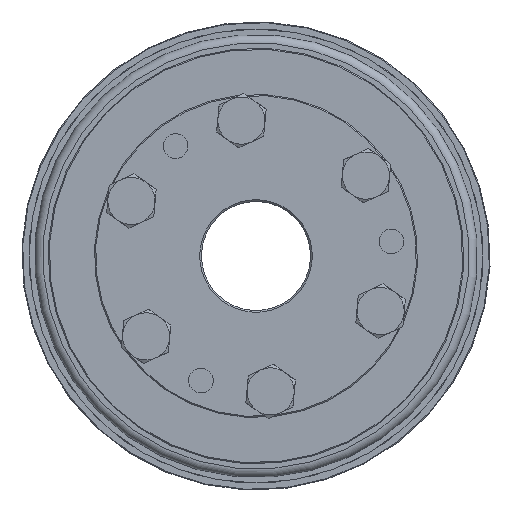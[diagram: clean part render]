
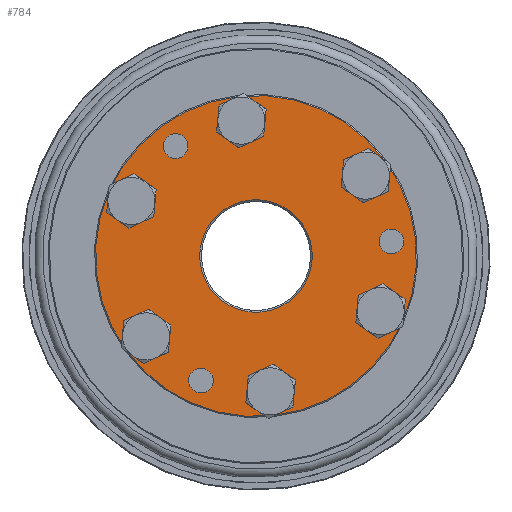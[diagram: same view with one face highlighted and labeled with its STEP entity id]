
A CAD part, left-side view. The second image highlights one B-rep face of the part: STEP entity #784.
In plain terms, the highlighted planar face has unit normal (-1, 0, 0).
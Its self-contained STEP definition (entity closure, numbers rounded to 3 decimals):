
#784 = ADVANCED_FACE( 'NONE', ( #1562, #1563, #1564, #1565, #1566, #1567, #1568, #1569, #1570, #1571, #1572 ), #1573, .F. );
#1562 = FACE_OUTER_BOUND( '', #2551, .T. );
#1563 = FACE_BOUND( '', #2552, .T. );
#1564 = FACE_BOUND( '', #2553, .T. );
#1565 = FACE_BOUND( '', #2554, .T. );
#1566 = FACE_BOUND( '', #2555, .T. );
#1567 = FACE_BOUND( '', #2556, .T. );
#1568 = FACE_BOUND( '', #2557, .T. );
#1569 = FACE_BOUND( '', #2558, .T. );
#1570 = FACE_BOUND( '', #2559, .T. );
#1571 = FACE_BOUND( '', #2560, .T. );
#1572 = FACE_BOUND( '', #2561, .T. );
#1573 = PLANE( '', #2562 );
#2551 = EDGE_LOOP( '', ( #3630 ) );
#2552 = EDGE_LOOP( '', ( #3631 ) );
#2553 = EDGE_LOOP( '', ( #3632 ) );
#2554 = EDGE_LOOP( '', ( #3633 ) );
#2555 = EDGE_LOOP( '', ( #3634 ) );
#2556 = EDGE_LOOP( '', ( #3635 ) );
#2557 = EDGE_LOOP( '', ( #3636 ) );
#2558 = EDGE_LOOP( '', ( #3637 ) );
#2559 = EDGE_LOOP( '', ( #3638 ) );
#2560 = EDGE_LOOP( '', ( #3639 ) );
#2561 = EDGE_LOOP( '', ( #3640 ) );
#2562 = AXIS2_PLACEMENT_3D( '', #3641, #3642, #3643 );
#3630 = ORIENTED_EDGE( '', *, *, #4742, .T. );
#3631 = ORIENTED_EDGE( '', *, *, #4908, .T. );
#3632 = ORIENTED_EDGE( '', *, *, #4941, .F. );
#3633 = ORIENTED_EDGE( '', *, *, #4942, .F. );
#3634 = ORIENTED_EDGE( '', *, *, #4943, .F. );
#3635 = ORIENTED_EDGE( '', *, *, #4944, .F. );
#3636 = ORIENTED_EDGE( '', *, *, #4945, .F. );
#3637 = ORIENTED_EDGE( '', *, *, #4946, .F. );
#3638 = ORIENTED_EDGE( '', *, *, #4776, .F. );
#3639 = ORIENTED_EDGE( '', *, *, #4947, .F. );
#3640 = ORIENTED_EDGE( '', *, *, #4948, .F. );
#3641 = CARTESIAN_POINT( '', ( 0., 15., 0. ) );
#3642 = DIRECTION( '', ( 1., 0., 0. ) );
#3643 = DIRECTION( '', ( 0., 1., 0. ) );
#4742 = EDGE_CURVE( 'NONE', #5306, #5306, #5307, .T. );
#4776 = EDGE_CURVE( 'NONE', #5364, #5364, #5365, .T. );
#4908 = EDGE_CURVE( 'NONE', #5585, #5585, #5586, .T. );
#4941 = EDGE_CURVE( 'NONE', #5634, #5634, #5635, .T. );
#4942 = EDGE_CURVE( 'NONE', #5636, #5636, #5637, .T. );
#4943 = EDGE_CURVE( 'NONE', #5638, #5638, #5639, .T. );
#4944 = EDGE_CURVE( 'NONE', #5640, #5640, #5641, .T. );
#4945 = EDGE_CURVE( 'NONE', #5642, #5642, #5643, .T. );
#4946 = EDGE_CURVE( 'NONE', #5644, #5644, #5645, .T. );
#4947 = EDGE_CURVE( 'NONE', #5646, #5646, #5647, .T. );
#4948 = EDGE_CURVE( 'NONE', #5648, #5648, #5649, .T. );
#5306 = VERTEX_POINT( '', #6118 );
#5307 = CIRCLE( '', #6119, 44.2 );
#5364 = VERTEX_POINT( '', #6195 );
#5365 = CIRCLE( '', #6196, 4.5 );
#5585 = VERTEX_POINT( '', #6642 );
#5586 = CIRCLE( '', #6643, 15.5 );
#5634 = VERTEX_POINT( '', #6707 );
#5635 = CIRCLE( '', #6708, 3.4 );
#5636 = VERTEX_POINT( '', #6709 );
#5637 = CIRCLE( '', #6710, 4.5 );
#5638 = VERTEX_POINT( '', #6711 );
#5639 = CIRCLE( '', #6712, 4.5 );
#5640 = VERTEX_POINT( '', #6713 );
#5641 = CIRCLE( '', #6714, 4.5 );
#5642 = VERTEX_POINT( '', #6715 );
#5643 = CIRCLE( '', #6716, 4.5 );
#5644 = VERTEX_POINT( '', #6717 );
#5645 = CIRCLE( '', #6718, 4.5 );
#5646 = VERTEX_POINT( '', #6719 );
#5647 = CIRCLE( '', #6720, 3.4 );
#5648 = VERTEX_POINT( '', #6721 );
#5649 = CIRCLE( '', #6722, 3.4 );
#6118 = CARTESIAN_POINT( '', ( 0., 0., -44.2 ) );
#6119 = AXIS2_PLACEMENT_3D( '', #7438, #7439, #7440 );
#6195 = CARTESIAN_POINT( '', ( 0., -18.75, 36.976 ) );
#6196 = AXIS2_PLACEMENT_3D( '', #7487, #7488, #7489 );
#6642 = CARTESIAN_POINT( '', ( 0., 0., -15.5 ) );
#6643 = AXIS2_PLACEMENT_3D( '', #7694, #7695, #7696 );
#6707 = CARTESIAN_POINT( '', ( 0., 0., -34.1 ) );
#6708 = AXIS2_PLACEMENT_3D( '', #7743, #7744, #7745 );
#6709 = CARTESIAN_POINT( '', ( 0., 18.75, 36.976 ) );
#6710 = AXIS2_PLACEMENT_3D( '', #7746, #7747, #7748 );
#6711 = CARTESIAN_POINT( '', ( 0., 37.5, 4.5 ) );
#6712 = AXIS2_PLACEMENT_3D( '', #7749, #7750, #7751 );
#6713 = CARTESIAN_POINT( '', ( 0., 18.75, -27.976 ) );
#6714 = AXIS2_PLACEMENT_3D( '', #7752, #7753, #7754 );
#6715 = CARTESIAN_POINT( '', ( 0., -18.75, -27.976 ) );
#6716 = AXIS2_PLACEMENT_3D( '', #7755, #7756, #7757 );
#6717 = CARTESIAN_POINT( '', ( 0., -37.5, 4.5 ) );
#6718 = AXIS2_PLACEMENT_3D( '', #7758, #7759, #7760 );
#6719 = CARTESIAN_POINT( '', ( 0., 32.476, 22.15 ) );
#6720 = AXIS2_PLACEMENT_3D( '', #7761, #7762, #7763 );
#6721 = CARTESIAN_POINT( '', ( 0., -32.476, 22.15 ) );
#6722 = AXIS2_PLACEMENT_3D( '', #7764, #7765, #7766 );
#7438 = CARTESIAN_POINT( '', ( 0., 0., 0. ) );
#7439 = DIRECTION( '', ( -1., 0., 0. ) );
#7440 = DIRECTION( '', ( 0., 0., -1. ) );
#7487 = CARTESIAN_POINT( '', ( 0., -18.75, 32.476 ) );
#7488 = DIRECTION( '', ( -1., 0., 0. ) );
#7489 = DIRECTION( '', ( 0., 0., 1. ) );
#7694 = CARTESIAN_POINT( '', ( 0., 0., 0. ) );
#7695 = DIRECTION( '', ( 1., 0., 0. ) );
#7696 = DIRECTION( '', ( 0., 0., -1. ) );
#7743 = CARTESIAN_POINT( '', ( 0., 0., -37.5 ) );
#7744 = DIRECTION( '', ( -1., 0., 0. ) );
#7745 = DIRECTION( '', ( 0., 0., 1. ) );
#7746 = CARTESIAN_POINT( '', ( 0., 18.75, 32.476 ) );
#7747 = DIRECTION( '', ( -1., 0., 0. ) );
#7748 = DIRECTION( '', ( 0., 0., 1. ) );
#7749 = CARTESIAN_POINT( '', ( 0., 37.5, 0. ) );
#7750 = DIRECTION( '', ( -1., 0., 0. ) );
#7751 = DIRECTION( '', ( 0., 0., 1. ) );
#7752 = CARTESIAN_POINT( '', ( 0., 18.75, -32.476 ) );
#7753 = DIRECTION( '', ( -1., 0., 0. ) );
#7754 = DIRECTION( '', ( 0., 0., 1. ) );
#7755 = CARTESIAN_POINT( '', ( 0., -18.75, -32.476 ) );
#7756 = DIRECTION( '', ( -1., 0., 0. ) );
#7757 = DIRECTION( '', ( 0., 0., 1. ) );
#7758 = CARTESIAN_POINT( '', ( 0., -37.5, 0. ) );
#7759 = DIRECTION( '', ( -1., 0., 0. ) );
#7760 = DIRECTION( '', ( 0., 0., 1. ) );
#7761 = CARTESIAN_POINT( '', ( 0., 32.476, 18.75 ) );
#7762 = DIRECTION( '', ( -1., 0., 0. ) );
#7763 = DIRECTION( '', ( 0., 0., 1. ) );
#7764 = CARTESIAN_POINT( '', ( 0., -32.476, 18.75 ) );
#7765 = DIRECTION( '', ( -1., 0., 0. ) );
#7766 = DIRECTION( '', ( 0., 0., 1. ) );
